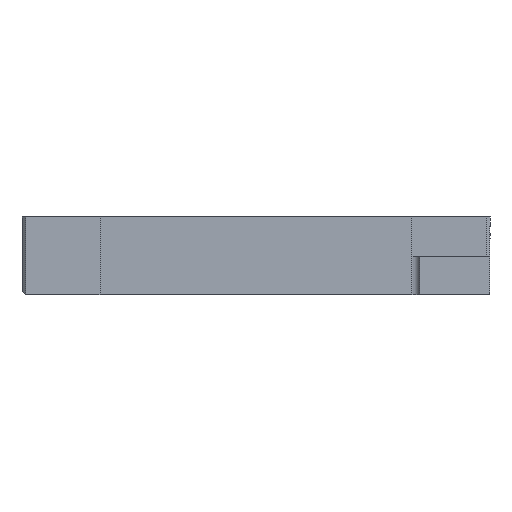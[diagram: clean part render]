
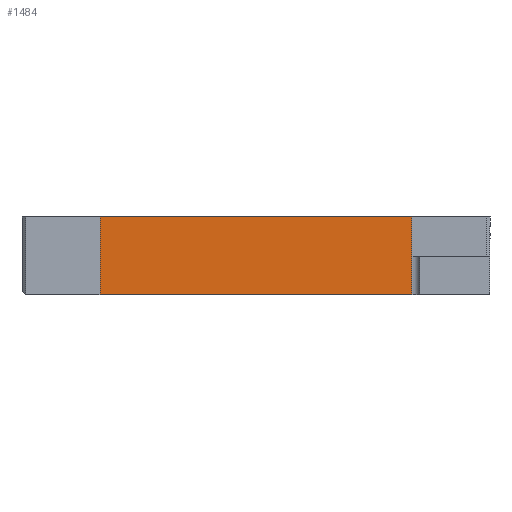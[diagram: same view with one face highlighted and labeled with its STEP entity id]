
A CAD part, front view. The second image highlights one B-rep face of the part: STEP entity #1484.
In plain terms, the highlighted planar face has unit normal (0, -1, 0).
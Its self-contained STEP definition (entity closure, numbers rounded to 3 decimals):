
#98 = FACE_OUTER_BOUND ( 'NONE', #1199, .T. ) ;
#409 = CARTESIAN_POINT ( 'NONE',  ( 20., -20., 10. ) ) ;
#439 = LINE ( 'NONE', #409, #460 ) ;
#460 = VECTOR ( 'NONE', #505, 1000. ) ;
#505 = DIRECTION ( 'NONE',  ( 0., 0., -1. ) ) ;
#798 = VECTOR ( 'NONE', #2753, 1000. ) ;
#814 = LINE ( 'NONE', #2719, #798 ) ;
#1199 = EDGE_LOOP ( 'NONE', ( #1585, #1630, #1636, #1607 ) ) ;
#1296 = EDGE_CURVE ( 'NONE', #1792, #1658, #439, .T. ) ;
#1453 = EDGE_CURVE ( 'NONE', #1828, #1792, #814, .T. ) ;
#1484 = ADVANCED_FACE ( 'NONE', ( #98 ), #2940, .F. ) ;
#1585 = ORIENTED_EDGE ( 'NONE', *, *, #4136, .T. ) ;
#1607 = ORIENTED_EDGE ( 'NONE', *, *, #4160, .T. ) ;
#1630 = ORIENTED_EDGE ( 'NONE', *, *, #1296, .F. ) ;
#1636 = ORIENTED_EDGE ( 'NONE', *, *, #1453, .F. ) ;
#1657 = VERTEX_POINT ( 'NONE', #3419 ) ;
#1658 = VERTEX_POINT ( 'NONE', #3405 ) ;
#1792 = VERTEX_POINT ( 'NONE', #3489 ) ;
#1828 = VERTEX_POINT ( 'NONE', #3507 ) ;
#2380 = CARTESIAN_POINT ( 'NONE',  ( -20., -20., 0. ) ) ;
#2389 = DIRECTION ( 'NONE',  ( 1., 0., 0. ) ) ;
#2423 = CARTESIAN_POINT ( 'NONE',  ( -20., -20., 10. ) ) ;
#2424 = DIRECTION ( 'NONE',  ( 0., 0., -1. ) ) ;
#2719 = CARTESIAN_POINT ( 'NONE',  ( -20., -20., 10. ) ) ;
#2753 = DIRECTION ( 'NONE',  ( 1., 0., 0. ) ) ;
#2940 = PLANE ( 'NONE',  #4055 ) ;
#2941 = CARTESIAN_POINT ( 'NONE',  ( -20., -20., 10. ) ) ;
#2945 = DIRECTION ( 'NONE',  ( 0., 1., 0. ) ) ;
#2946 = DIRECTION ( 'NONE',  ( 0., 0., 1. ) ) ;
#3405 = CARTESIAN_POINT ( 'NONE',  ( 20., -20., 0. ) ) ;
#3419 = CARTESIAN_POINT ( 'NONE',  ( -20., -20., 0. ) ) ;
#3489 = CARTESIAN_POINT ( 'NONE',  ( 20., -20., 10. ) ) ;
#3507 = CARTESIAN_POINT ( 'NONE',  ( -20., -20., 10. ) ) ;
#3801 = LINE ( 'NONE', #2380, #3812 ) ;
#3812 = VECTOR ( 'NONE', #2389, 1000. ) ;
#3837 = LINE ( 'NONE', #2423, #3861 ) ;
#3861 = VECTOR ( 'NONE', #2424, 1000. ) ;
#4055 = AXIS2_PLACEMENT_3D ( 'NONE', #2941, #2945, #2946 ) ;
#4136 = EDGE_CURVE ( 'NONE', #1657, #1658, #3801, .T. ) ;
#4160 = EDGE_CURVE ( 'NONE', #1828, #1657, #3837, .T. ) ;
